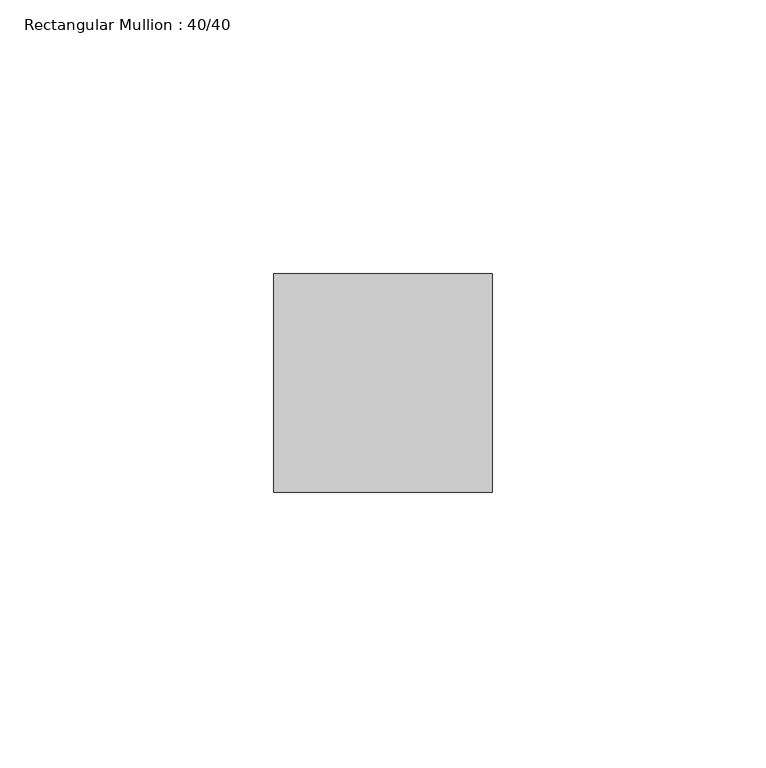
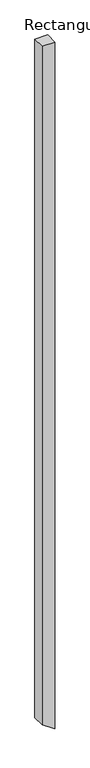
"""IFC4 building model written with IfcOpenShell, lengths in millimetres: member geometry, Rectangular Mullion : 40/40."""

from ifc_helpers import new_model, si_unit, frame, origin, place, context, project, spatial, polyline, outline, extrude, source, transform, mapped, element, save


def rectangular_mullion_40_40_89549069(model_context):
    return source(origin(), model_context, "Body", "SweptSolid", [
        extrude(outline(polyline([(0.0, 0.0), (0.0, -40.0), (-2257.529538, -40.0), (-2284.9148581, 0.0), (0.0, 0.0)])), frame((0.0, -20.0, 0.0), z_axis=(0.0, 1.0, 0.0), x_axis=(0.0, 0.0, 1.0)), (0.0, 0.0, 1.0), 40.0),
    ])


if __name__ == "__main__":
    model = new_model("IFC4")
    model_context = context("Model", 3, world=origin())
    ifc_project = project(units=[si_unit("LENGTHUNIT", "METRE", prefix="MILLI")], contexts=[model_context])
    site = spatial("IfcSite", under=ifc_project)
    building = spatial("IfcBuilding", under=site)
    placement = place(None, origin())
    rectangular_mullion_40_40_shape = rectangular_mullion_40_40_89549069(model_context)
    element("IfcMember", 1, ObjectType="Rectangular Mullion : 40/40", at=placement, inside=building, context=model_context, shape_type="MappedRepresentation", body=[
        mapped(rectangular_mullion_40_40_shape, transform((0.0, 0.0, 0.0), x_axis=(1.0, 0.0, 0.0), y_axis=(0.0, 1.0, 0.0), z_axis=(0.0, 0.0, 1.0))),
    ])
    save(model, "model.ifc")
